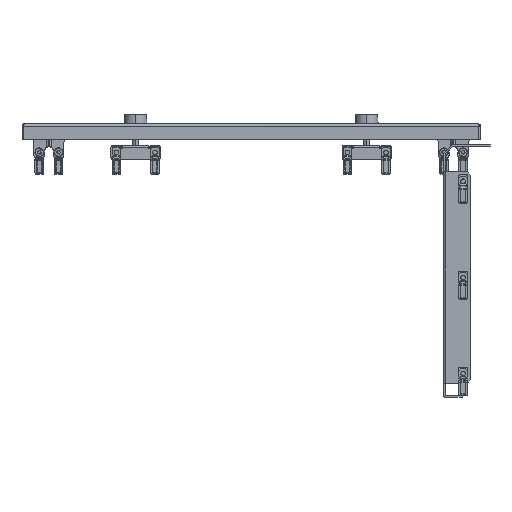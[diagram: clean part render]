
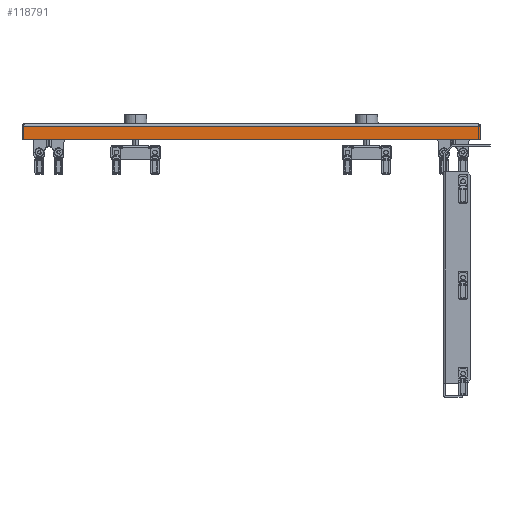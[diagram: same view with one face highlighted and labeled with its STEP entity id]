
A CAD part, left-side view. The second image highlights one B-rep face of the part: STEP entity #118791.
In plain terms, the highlighted planar face has unit normal (-1, 0, 0).
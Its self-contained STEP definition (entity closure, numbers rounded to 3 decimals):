
#107791=CARTESIAN_POINT(' ',(0.,595.,-2.8));
#107792=VERTEX_POINT(' ',#107791);
#107806=CARTESIAN_POINT(' ',(0.,595.,-2.8));
#107811=DIRECTION(' ',(0.,-1.,0.));
#107816=VECTOR(' ',#107811,1.);
#107821=LINE('',#107806,#107816);
#107826=CARTESIAN_POINT(' ',(0.,0.,-2.8));
#107827=VERTEX_POINT(' ',#107826);
#107831=EDGE_CURVE(' ',#107792,#107827,#107821,.T.);
#118651=DIRECTION(' ',(-1.,-0.,-0.));
#118656=CARTESIAN_POINT(' ',(0.,0.,-2.8));
#118661=DIRECTION(' ',(-0.,1.,0.));
#118666=AXIS2_PLACEMENT_3D(' ',#118656,#118651,#118661);
#118671=PLANE('NONE',#118666);
#118676=CARTESIAN_POINT(' ',(0.,0.,-20.));
#118681=DIRECTION(' ',(0.,0.,1.));
#118686=VECTOR(' ',#118681,1.);
#118691=LINE('',#118676,#118686);
#118696=CARTESIAN_POINT(' ',(0.,0.,-20.));
#118697=VERTEX_POINT(' ',#118696);
#118701=EDGE_CURVE(' ',#118697,#107827,#118691,.T.);
#118706=ORIENTED_EDGE(' ',*,*,#118701,.T.);
#118711=ORIENTED_EDGE(' ',*,*,#107831,.F.);
#118716=CARTESIAN_POINT(' ',(0.,595.,-20.));
#118721=DIRECTION(' ',(0.,0.,1.));
#118726=VECTOR(' ',#118721,1.);
#118731=LINE('',#118716,#118726);
#118736=CARTESIAN_POINT(' ',(0.,595.,-20.));
#118737=VERTEX_POINT(' ',#118736);
#118741=EDGE_CURVE(' ',#118737,#107792,#118731,.T.);
#118746=ORIENTED_EDGE(' ',*,*,#118741,.F.);
#118751=CARTESIAN_POINT(' ',(0.,595.,-20.));
#118756=DIRECTION(' ',(0.,-1.,0.));
#118761=VECTOR(' ',#118756,1.);
#118766=LINE('',#118751,#118761);
#118771=EDGE_CURVE(' ',#118737,#118697,#118766,.T.);
#118776=ORIENTED_EDGE(' ',*,*,#118771,.T.);
#118781=EDGE_LOOP(' ',(#118706,#118711,#118746,#118776));
#118786=FACE_OUTER_BOUND(' ',#118781,.T.);
#118791=ADVANCED_FACE('NONE',(#118786),#118671,.T.);
